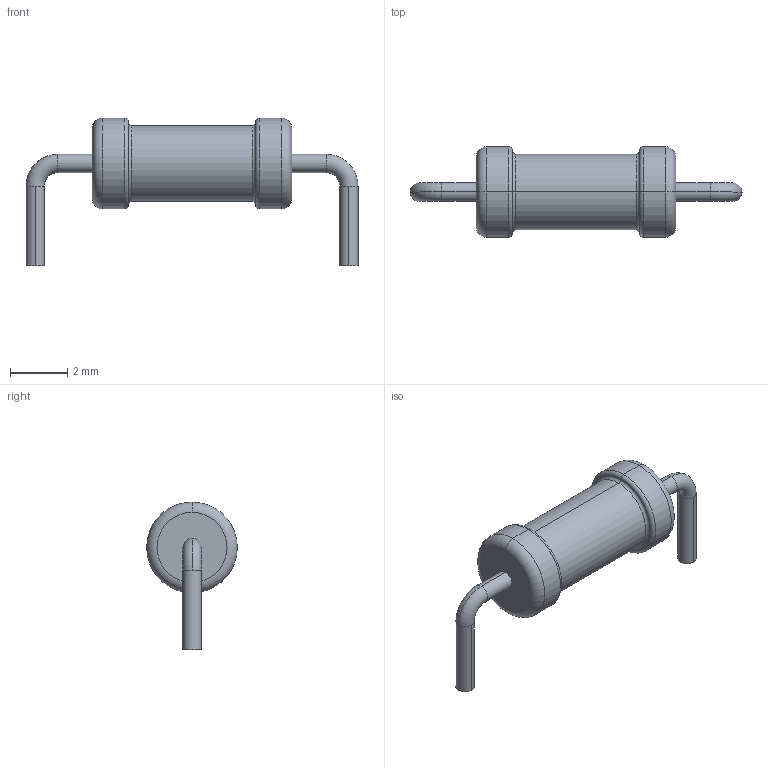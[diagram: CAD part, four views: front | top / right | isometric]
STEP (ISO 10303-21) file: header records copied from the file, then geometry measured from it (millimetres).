
FILE_DESCRIPTION (( 'STEP AP214' ), '1' );
FILE_NAME ( 'RESAD1100W64L699D318.STEP', '2021-10-06T06:48:57', ( '' ), ( '' ), '', '©2017 PCB Libraries, Inc.', '' );
FILE_SCHEMA (( 'AUTOMOTIVE_DESIGN' ));
Length unit declared in the file: millimetre
Products named in the file (1): RESAD1100W64L699D318
Bounding box: 11.64 x 3.18 x 5.18 mm (x, y, z)
Volume: 47.8 mm3; surface area: 100.5 mm2
Topology: 3 solids, 3 shells, 38 faces, 74 edges, 44 vertices
Faces by surface type: torus 16, cylinder 14, plane 8
Entity records: 1152 total; most frequent: DIRECTION 212, CARTESIAN_POINT 157, ORIENTED_EDGE 148, AXIS2_PLACEMENT_3D 99, EDGE_CURVE 74, CIRCLE 60, VERTEX_POINT 44, STYLED_ITEM 42
